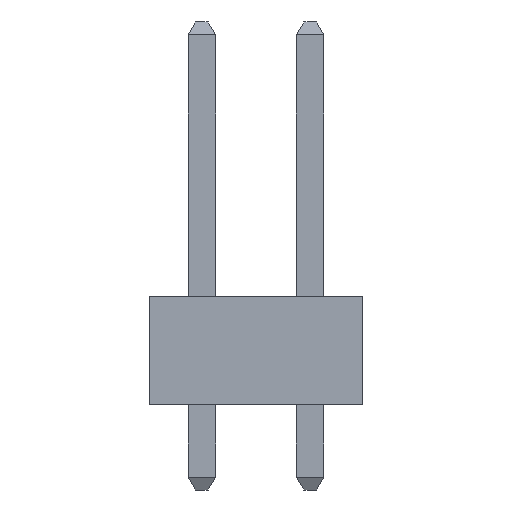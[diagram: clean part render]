
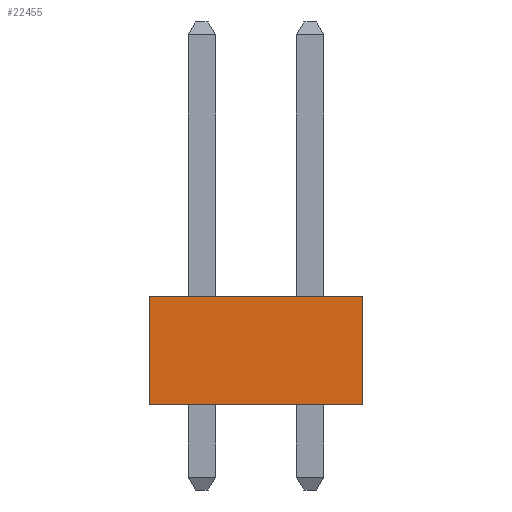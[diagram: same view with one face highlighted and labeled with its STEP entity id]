
A CAD part, left-side view. The second image highlights one B-rep face of the part: STEP entity #22455.
In plain terms, the highlighted planar face has unit normal (-1, 0, 0).
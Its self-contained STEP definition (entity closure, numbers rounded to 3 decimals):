
#22394 = CARTESIAN_POINT ( 'NONE',  ( -1.27, 3.77, 0. ) ) ;
#22395 = VERTEX_POINT ( 'NONE', #22394 ) ;
#22402 = CARTESIAN_POINT ( 'NONE',  ( -1.27, 3.77, 2.54 ) ) ;
#22403 = VERTEX_POINT ( 'NONE', #22402 ) ;
#22404 = CARTESIAN_POINT ( 'NONE',  ( -1.27, 3.77, 2.54 ) ) ;
#22405 = DIRECTION ( 'NONE',  ( 0., 0., -1. ) ) ;
#22406 = VECTOR ( 'NONE', #22405, 1000. ) ;
#22407 = LINE ( 'NONE', #22404, #22406 ) ;
#22408 = EDGE_CURVE ( 'NONE', #22403, #22395, #22407, .T. ) ;
#22425 = CARTESIAN_POINT ( 'NONE',  ( -1.27, -1.23, 0. ) ) ;
#22426 = VERTEX_POINT ( 'NONE', #22425 ) ;
#22427 = CARTESIAN_POINT ( 'NONE',  ( -1.27, -1.23, 0. ) ) ;
#22428 = DIRECTION ( 'NONE',  ( 0., -1., 0. ) ) ;
#22429 = VECTOR ( 'NONE', #22428, 1000. ) ;
#22430 = LINE ( 'NONE', #22427, #22429 ) ;
#22431 = EDGE_CURVE ( 'NONE', #22395, #22426, #22430, .T. ) ;
#22432 = ORIENTED_EDGE ( 'NONE', *, *, #22431, .T. ) ;
#22433 = CARTESIAN_POINT ( 'NONE',  ( -1.27, -1.23, 2.54 ) ) ;
#22434 = VERTEX_POINT ( 'NONE', #22433 ) ;
#22435 = CARTESIAN_POINT ( 'NONE',  ( -1.27, -1.23, 2.54 ) ) ;
#22436 = DIRECTION ( 'NONE',  ( 0., 0., -1. ) ) ;
#22437 = VECTOR ( 'NONE', #22436, 1000. ) ;
#22438 = LINE ( 'NONE', #22435, #22437 ) ;
#22439 = EDGE_CURVE ( 'NONE', #22434, #22426, #22438, .T. ) ;
#22440 = ORIENTED_EDGE ( 'NONE', *, *, #22439, .F. ) ;
#22441 = CARTESIAN_POINT ( 'NONE',  ( -1.27, -1.23, 2.54 ) ) ;
#22442 = DIRECTION ( 'NONE',  ( 0., -1., 0. ) ) ;
#22443 = VECTOR ( 'NONE', #22442, 1000. ) ;
#22444 = LINE ( 'NONE', #22441, #22443 ) ;
#22445 = EDGE_CURVE ( 'NONE', #22403, #22434, #22444, .T. ) ;
#22446 = ORIENTED_EDGE ( 'NONE', *, *, #22445, .F. ) ;
#22447 = ORIENTED_EDGE ( 'NONE', *, *, #22408, .T. ) ;
#22448 = EDGE_LOOP ( 'NONE', ( #22432, #22440, #22446, #22447 ) ) ;
#22449 = FACE_OUTER_BOUND ( 'NONE', #22448, .T. ) ;
#22450 = CARTESIAN_POINT ( 'NONE',  ( -1.27, -1.23, 2.54 ) ) ;
#22451 = DIRECTION ( 'NONE',  ( 1., 0., 0. ) ) ;
#22452 = DIRECTION ( 'NONE',  ( 0., 1., 0. ) ) ;
#22453 = AXIS2_PLACEMENT_3D ( 'NONE', #22450, #22451, #22452 ) ;
#22454 = PLANE ( 'NONE', #22453 ) ;
#22455 = ADVANCED_FACE ( 'NONE', ( #22449 ), #22454, .F. ) ;
